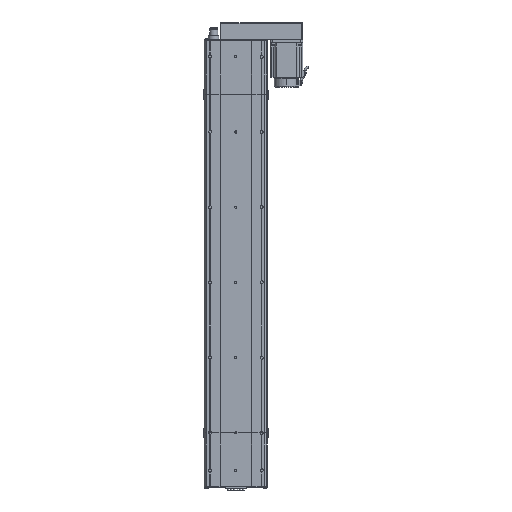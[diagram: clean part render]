
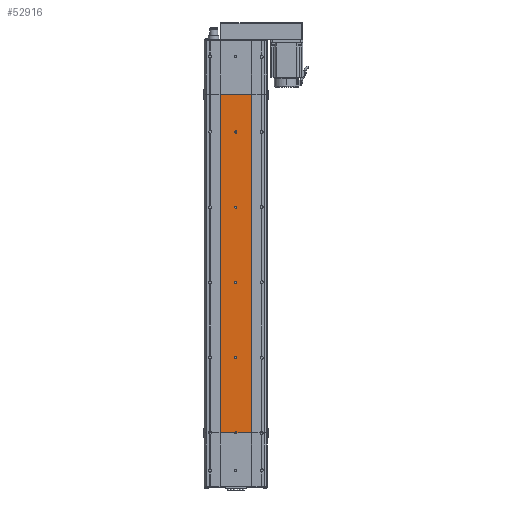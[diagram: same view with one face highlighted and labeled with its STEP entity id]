
A CAD part, front view. The second image highlights one B-rep face of the part: STEP entity #52916.
In plain terms, the highlighted planar face has unit normal (0, -1, 0).
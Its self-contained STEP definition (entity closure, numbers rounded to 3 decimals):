
#17768 = DIRECTION ( 'NONE',  ( 0., 0., 1. ) ) ;
#17893 = CARTESIAN_POINT ( 'NONE',  ( 3., 0., 0. ) ) ;
#17991 = AXIS2_PLACEMENT_3D ( 'NONE', #18156, #18037, #18035 ) ;
#18035 = DIRECTION ( 'NONE',  ( 0., 0., -1. ) ) ;
#18037 = DIRECTION ( 'NONE',  ( 0., -1., 0. ) ) ;
#18156 = CARTESIAN_POINT ( 'NONE',  ( 0., 0., 600. ) ) ;
#18300 = DIRECTION ( 'NONE',  ( 0., 0., -1. ) ) ;
#18302 = VECTOR ( 'NONE', #18300, 1000. ) ;
#18304 = CARTESIAN_POINT ( 'NONE',  ( -41.5, 0., 900. ) ) ;
#18306 = LINE ( 'NONE', #18304, #18302 ) ;
#18387 = CIRCLE ( 'NONE', #17991, 3. ) ;
#18576 = DIRECTION ( 'NONE',  ( 1., 0., 0. ) ) ;
#18578 = VECTOR ( 'NONE', #18576, 1000. ) ;
#18580 = CARTESIAN_POINT ( 'NONE',  ( 0., 0., 0. ) ) ;
#18581 = LINE ( 'NONE', #18580, #18578 ) ;
#18638 = CARTESIAN_POINT ( 'NONE',  ( 0., 0., 397. ) ) ;
#19009 = CARTESIAN_POINT ( 'NONE',  ( 0., 0., 203. ) ) ;
#19432 = CARTESIAN_POINT ( 'NONE',  ( 0., 0., 803. ) ) ;
#19472 = AXIS2_PLACEMENT_3D ( 'NONE', #19676, #19509, #19508 ) ;
#19484 = CIRCLE ( 'NONE', #19472, 3. ) ;
#19508 = DIRECTION ( 'NONE',  ( 0., 0., -1. ) ) ;
#19509 = DIRECTION ( 'NONE',  ( 0., -1., 0. ) ) ;
#19529 = CARTESIAN_POINT ( 'NONE',  ( 0., 0., 200. ) ) ;
#19556 = DIRECTION ( 'NONE',  ( 0., 0., -1. ) ) ;
#19558 = DIRECTION ( 'NONE',  ( 0., -1., 0. ) ) ;
#19571 = AXIS2_PLACEMENT_3D ( 'NONE', #19529, #19558, #19556 ) ;
#19676 = CARTESIAN_POINT ( 'NONE',  ( 0., 0., 400. ) ) ;
#19715 = CIRCLE ( 'NONE', #19571, 3. ) ;
#19748 = CARTESIAN_POINT ( 'NONE',  ( 0., 0., 197. ) ) ;
#19861 = CARTESIAN_POINT ( 'NONE',  ( 0., 0., 597. ) ) ;
#19983 = CARTESIAN_POINT ( 'NONE',  ( 0., 0., 400. ) ) ;
#19995 = PLANE ( 'NONE',  #20349 ) ;
#19997 = DIRECTION ( 'NONE',  ( 1., 0., 0. ) ) ;
#19999 = VECTOR ( 'NONE', #19997, 1000. ) ;
#20002 = CARTESIAN_POINT ( 'NONE',  ( 0., 0., 900. ) ) ;
#20004 = FACE_BOUND ( 'NONE', #52495, .T. ) ;
#20007 = AXIS2_PLACEMENT_3D ( 'NONE', #19983, #20587, #20584 ) ;
#20008 = DIRECTION ( 'NONE',  ( 0., 0., -1. ) ) ;
#20010 = DIRECTION ( 'NONE',  ( 0., -1., 0. ) ) ;
#20011 = CARTESIAN_POINT ( 'NONE',  ( 0., 0., 800. ) ) ;
#20015 = CARTESIAN_POINT ( 'NONE',  ( 41.5, 0., 900. ) ) ;
#20016 = CARTESIAN_POINT ( 'NONE',  ( 0., 0., 900. ) ) ;
#20019 = LINE ( 'NONE', #20016, #19999 ) ;
#20023 = CARTESIAN_POINT ( 'NONE',  ( 0., 0., 797. ) ) ;
#20047 = AXIS2_PLACEMENT_3D ( 'NONE', #20011, #20010, #20008 ) ;
#20200 = CIRCLE ( 'NONE', #20452, 3. ) ;
#20265 = DIRECTION ( 'NONE',  ( 0., 0., -1. ) ) ;
#20268 = DIRECTION ( 'NONE',  ( 0., -1., 0. ) ) ;
#20286 = CARTESIAN_POINT ( 'NONE',  ( 0., 0., 403. ) ) ;
#20294 = CARTESIAN_POINT ( 'NONE',  ( -41.5, 0., 0. ) ) ;
#20296 = CIRCLE ( 'NONE', #20007, 3. ) ;
#20306 = CIRCLE ( 'NONE', #20047, 3. ) ;
#20309 = CARTESIAN_POINT ( 'NONE',  ( -3., 0., 0. ) ) ;
#20349 = AXIS2_PLACEMENT_3D ( 'NONE', #20002, #20563, #17768 ) ;
#20375 = FACE_OUTER_BOUND ( 'NONE', #52906, .T. ) ;
#20378 = DIRECTION ( 'NONE',  ( 0., 0., -1. ) ) ;
#20381 = DIRECTION ( 'NONE',  ( 0., -1., 0. ) ) ;
#20383 = CARTESIAN_POINT ( 'NONE',  ( 0., 0., 200. ) ) ;
#20448 = CARTESIAN_POINT ( 'NONE',  ( 0., 0., 0. ) ) ;
#20452 = AXIS2_PLACEMENT_3D ( 'NONE', #20448, #20268, #20265 ) ;
#20527 = LINE ( 'NONE', #20623, #20621 ) ;
#20554 = DIRECTION ( 'NONE',  ( 0., 0., -1. ) ) ;
#20555 = VECTOR ( 'NONE', #20554, 1000. ) ;
#20556 = CARTESIAN_POINT ( 'NONE',  ( 41.5, 0., 900. ) ) ;
#20558 = LINE ( 'NONE', #20556, #20555 ) ;
#20561 = FACE_BOUND ( 'NONE', #52589, .T. ) ;
#20563 = DIRECTION ( 'NONE',  ( 0., 1., 0. ) ) ;
#20564 = FACE_BOUND ( 'NONE', #52890, .T. ) ;
#20573 = FACE_BOUND ( 'NONE', #52586, .T. ) ;
#20574 = CIRCLE ( 'NONE', #20595, 3. ) ;
#20584 = DIRECTION ( 'NONE',  ( 0., 0., -1. ) ) ;
#20587 = DIRECTION ( 'NONE',  ( 0., -1., 0. ) ) ;
#20595 = AXIS2_PLACEMENT_3D ( 'NONE', #20383, #20381, #20378 ) ;
#20611 = CARTESIAN_POINT ( 'NONE',  ( 41.5, 0., 0. ) ) ;
#20615 = CARTESIAN_POINT ( 'NONE',  ( -41.5, 0., 900. ) ) ;
#20619 = DIRECTION ( 'NONE',  ( -1., 0., 0. ) ) ;
#20621 = VECTOR ( 'NONE', #20619, 1000. ) ;
#20623 = CARTESIAN_POINT ( 'NONE',  ( 0., 0., 0. ) ) ;
#20638 = CARTESIAN_POINT ( 'NONE',  ( 0., 0., 603. ) ) ;
#20641 = DIRECTION ( 'NONE',  ( 0., 0., -1. ) ) ;
#20643 = DIRECTION ( 'NONE',  ( 0., -1., 0. ) ) ;
#20645 = CARTESIAN_POINT ( 'NONE',  ( 0., 0., 800. ) ) ;
#20646 = AXIS2_PLACEMENT_3D ( 'NONE', #20645, #20643, #20641 ) ;
#20649 = CIRCLE ( 'NONE', #20646, 3. ) ;
#20736 = DIRECTION ( 'NONE',  ( 0., 0., -1. ) ) ;
#20738 = DIRECTION ( 'NONE',  ( 0., -1., 0. ) ) ;
#20740 = CARTESIAN_POINT ( 'NONE',  ( 0., 0., 600. ) ) ;
#20742 = AXIS2_PLACEMENT_3D ( 'NONE', #20740, #20738, #20736 ) ;
#21048 = CIRCLE ( 'NONE', #20742, 3. ) ;
#52495 = EDGE_LOOP ( 'NONE', ( #52918, #52907 ) ) ;
#52499 = ORIENTED_EDGE ( 'NONE', *, *, #52891, .F. ) ;
#52517 = VERTEX_POINT ( 'NONE', #17893 ) ;
#52586 = EDGE_LOOP ( 'NONE', ( #52499, #52892 ) ) ;
#52589 = EDGE_LOOP ( 'NONE', ( #52911, #52914 ) ) ;
#52590 = EDGE_CURVE ( 'NONE', #52777, #52958, #18387, .T. ) ;
#52591 = ORIENTED_EDGE ( 'NONE', *, *, #52824, .F. ) ;
#52592 = EDGE_CURVE ( 'NONE', #52517, #52823, #18581, .T. ) ;
#52593 = ORIENTED_EDGE ( 'NONE', *, *, #52597, .T. ) ;
#52594 = ORIENTED_EDGE ( 'NONE', *, *, #52592, .T. ) ;
#52597 = EDGE_CURVE ( 'NONE', #52828, #52887, #18306, .T. ) ;
#52661 = VERTEX_POINT ( 'NONE', #19009 ) ;
#52751 = VERTEX_POINT ( 'NONE', #19748 ) ;
#52752 = EDGE_CURVE ( 'NONE', #52661, #52751, #19715, .T. ) ;
#52772 = VERTEX_POINT ( 'NONE', #19432 ) ;
#52777 = VERTEX_POINT ( 'NONE', #19861 ) ;
#52789 = EDGE_CURVE ( 'NONE', #52864, #52804, #19484, .T. ) ;
#52804 = VERTEX_POINT ( 'NONE', #18638 ) ;
#52807 = VERTEX_POINT ( 'NONE', #20023 ) ;
#52822 = EDGE_CURVE ( 'NONE', #52894, #52887, #20527, .T. ) ;
#52823 = VERTEX_POINT ( 'NONE', #20611 ) ;
#52824 = EDGE_CURVE ( 'NONE', #52517, #52894, #20200, .T. ) ;
#52827 = ORIENTED_EDGE ( 'NONE', *, *, #52829, .F. ) ;
#52828 = VERTEX_POINT ( 'NONE', #20615 ) ;
#52829 = EDGE_CURVE ( 'NONE', #52901, #52823, #20558, .T. ) ;
#52864 = VERTEX_POINT ( 'NONE', #20286 ) ;
#52885 = ORIENTED_EDGE ( 'NONE', *, *, #52895, .F. ) ;
#52887 = VERTEX_POINT ( 'NONE', #20294 ) ;
#52889 = ORIENTED_EDGE ( 'NONE', *, *, #52822, .F. ) ;
#52890 = EDGE_LOOP ( 'NONE', ( #52885, #52899 ) ) ;
#52891 = EDGE_CURVE ( 'NONE', #52807, #52772, #20306, .T. ) ;
#52892 = ORIENTED_EDGE ( 'NONE', *, *, #52946, .F. ) ;
#52893 = EDGE_CURVE ( 'NONE', #52828, #52901, #20019, .T. ) ;
#52894 = VERTEX_POINT ( 'NONE', #20309 ) ;
#52895 = EDGE_CURVE ( 'NONE', #52804, #52864, #20296, .T. ) ;
#52899 = ORIENTED_EDGE ( 'NONE', *, *, #52789, .F. ) ;
#52901 = VERTEX_POINT ( 'NONE', #20015 ) ;
#52903 = ORIENTED_EDGE ( 'NONE', *, *, #52893, .F. ) ;
#52906 = EDGE_LOOP ( 'NONE', ( #52889, #52591, #52594, #52827, #52903, #52593 ) ) ;
#52907 = ORIENTED_EDGE ( 'NONE', *, *, #52752, .F. ) ;
#52911 = ORIENTED_EDGE ( 'NONE', *, *, #52590, .F. ) ;
#52912 = EDGE_CURVE ( 'NONE', #52751, #52661, #20574, .T. ) ;
#52914 = ORIENTED_EDGE ( 'NONE', *, *, #52960, .F. ) ;
#52916 = ADVANCED_FACE ( 'NONE', ( #20004, #20561, #20573, #20564, #20375 ), #19995, .F. ) ;
#52918 = ORIENTED_EDGE ( 'NONE', *, *, #52912, .F. ) ;
#52946 = EDGE_CURVE ( 'NONE', #52772, #52807, #20649, .T. ) ;
#52958 = VERTEX_POINT ( 'NONE', #20638 ) ;
#52960 = EDGE_CURVE ( 'NONE', #52958, #52777, #21048, .T. ) ;
